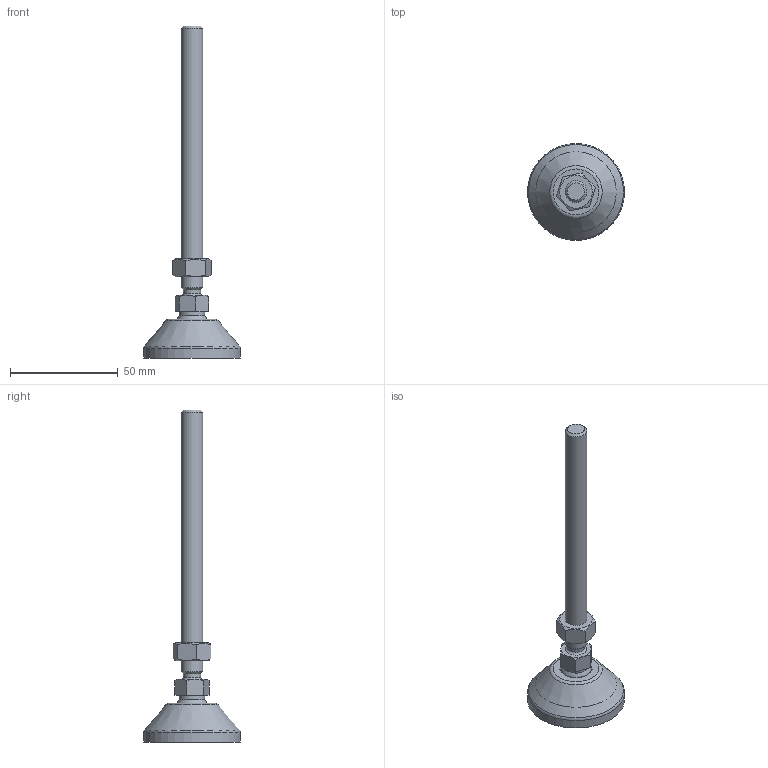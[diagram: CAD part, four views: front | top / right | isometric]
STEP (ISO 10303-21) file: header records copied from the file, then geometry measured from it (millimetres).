
FILE_DESCRIPTION(('STEP AP203'), '1');
FILE_NAME('栖闉罻', '', ('UNSPECIFIED'), ('UNSPECIFIED'), 'C3D Converter', 'C3D Toolkit', '');
FILE_SCHEMA(('CONFIG_CONTROL_DESIGN'));
Length unit declared in the file: millimetre
Products named in the file (4): A00015.1045; A00020.110125
Assembly tree (3 placements, depth 3):
  (unnamed)
    A00015.1045
    A00020.110125
      (unnamed)
Bounding box: 45 x 45 x 154.1 mm (x, y, z)
Volume: 26192.4 mm3; surface area: 12716.9 mm2
Topology: 3 solids, 3 shells, 134 faces, 367 edges, 243 vertices
Faces by surface type: plane 78, cylinder 26, cone 15, torus 13, sphere 2
Full cylindrical faces by diameter (mm): 8 x1, 8.376 x1, 10 x1, 12 x1, 14.3 x1, 15 x2, 15.5 x1, 37.3 x1, 45 x1
Entity records: 7321 total; most frequent: CARTESIAN_POINT 2732, DIRECTION 694, ORIENTED_EDGE 680, EDGE_CURVE 340, AXIS2_PLACEMENT_3D 274, VERTEX_POINT 242, EDGE_LOOP 166, LINE 146
